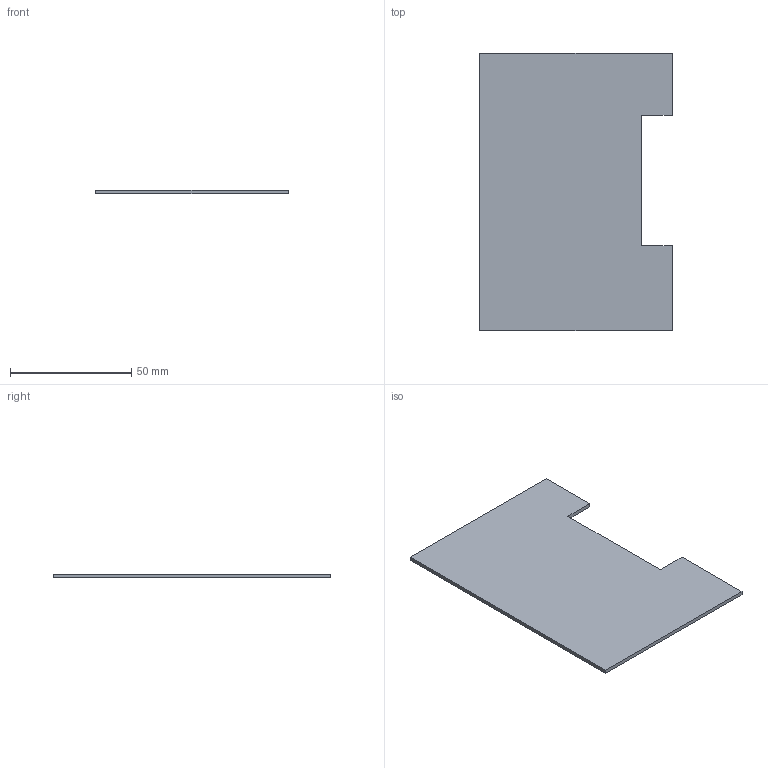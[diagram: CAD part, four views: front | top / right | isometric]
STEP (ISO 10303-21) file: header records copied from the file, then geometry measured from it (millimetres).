
FILE_DESCRIPTION (( 'STEP AP203' ), '1' );
FILE_NAME ('servo cover.STEP', '2018-03-01T17:06:39', ( '' ), ( '' ), 'SwSTEP 2.0', 'SolidWorks 2015', '' );
FILE_SCHEMA (( 'CONFIG_CONTROL_DESIGN' ));
Length unit declared in the file: inch
Products named in the file (1): servo cover
Bounding box: 79.38 x 114.3 x 1.59 mm (x, y, z)
Volume: 13314.5 mm3; surface area: 17429.4 mm2
Topology: 1 solids, 1 shells, 10 faces, 24 edges, 16 vertices
Faces by surface type: plane 10
Entity records: 367 total; most frequent: CARTESIAN_POINT 51, ORIENTED_EDGE 48, DIRECTION 46, EDGE_CURVE 24, LINE 24, VECTOR 24, VERTEX_POINT 16, AXIS2_PLACEMENT_3D 11
